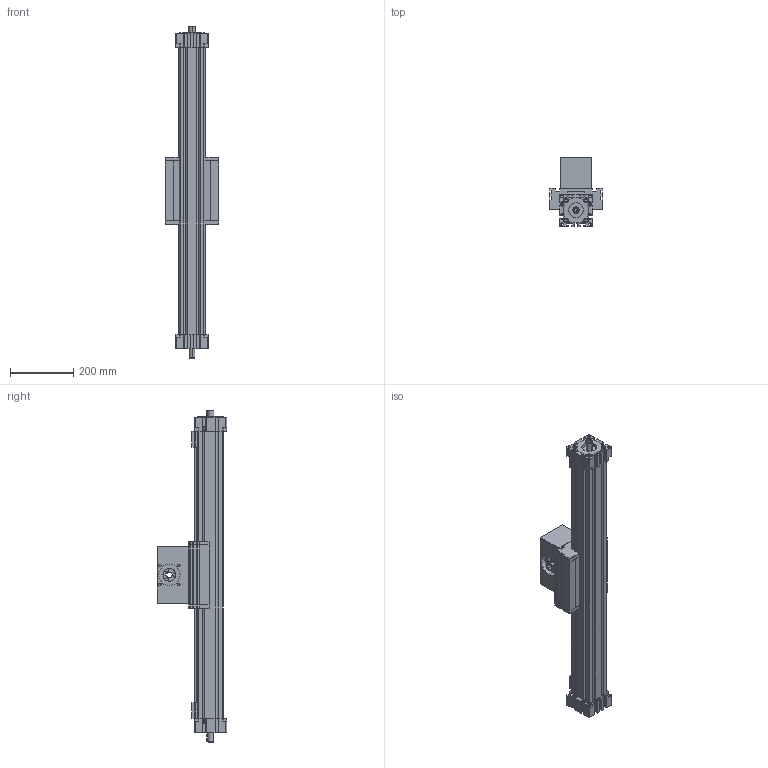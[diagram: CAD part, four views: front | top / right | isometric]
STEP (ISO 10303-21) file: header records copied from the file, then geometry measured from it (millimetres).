
FILE_DESCRIPTION (( 'STEP AP214' ), '1' );
FILE_NAME ('ELSD80.STEP', '2022-07-21T11:19:02', ( '' ), ( '' ), 'SwSTEP 2.0', 'SolidWorks 2020', '' );
FILE_SCHEMA (( 'AUTOMOTIVE_DESIGN' ));
Length unit declared in the file: millimetre
Products named in the file (6): timing belt reverse unit^ELSD80_coupling claw pos.1; load block^ELSD80_standard; drive block^ELSD80_standard; ELSD80; carriage^ELSD80_carriage version 0; profile^ELSD80_2 guide rods
Assembly tree (5 placements, depth 2):
  ELSD80
    profile^ELSD80_2 guide rods
    carriage^ELSD80_carriage version 0
    timing belt reverse unit^ELSD80_coupling claw pos.1
    load block^ELSD80_standard
    drive block^ELSD80_standard
Bounding box: 170 x 220 x 1053 mm (x, y, z)
Volume: 7872059.5 mm3; surface area: 1110251.7 mm2
Topology: 14 solids, 14 shells, 1133 faces, 3080 edges, 1985 vertices
Faces by surface type: plane 759, cylinder 297, cone 41, bspline 16, sphere 12, torus 8
Entity records: 37728 total; most frequent: CARTESIAN_POINT 6900, ORIENTED_EDGE 6100, DIRECTION 5870, EDGE_CURVE 3050, LINE 2376, VECTOR 2376, VERTEX_POINT 1985, AXIS2_PLACEMENT_3D 1747
